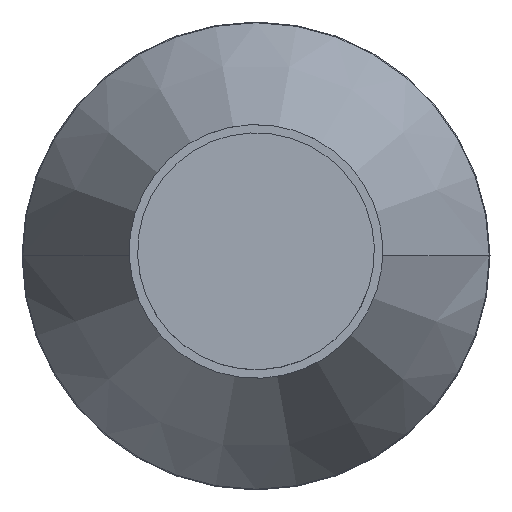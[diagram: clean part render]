
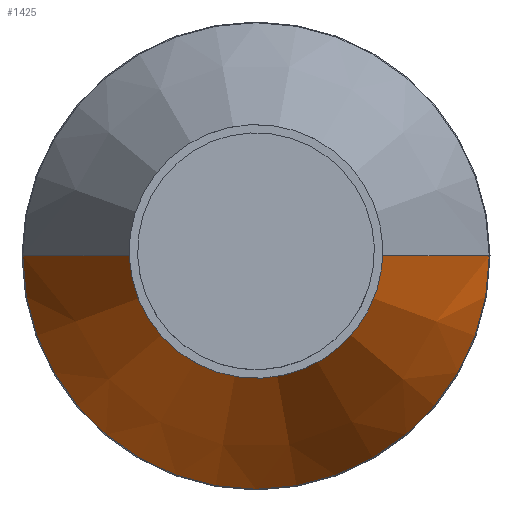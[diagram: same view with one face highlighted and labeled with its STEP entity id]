
A CAD part, top view. The second image highlights one B-rep face of the part: STEP entity #1425.
In plain terms, the highlighted conical face has half-angle 24.664 degrees and reference radius 82.726 mm.
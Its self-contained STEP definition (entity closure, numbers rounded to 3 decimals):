
#3 = CARTESIAN_POINT ( 'NONE',  ( -109.605, 25.586, 44.707 ) ) ;
#113 = AXIS2_PLACEMENT_3D ( 'NONE', #1524, #2333, #1069 ) ;
#251 = DIRECTION ( 'NONE',  ( 0., 0., -1. ) ) ;
#382 = ORIENTED_EDGE ( 'NONE', *, *, #1811, .F. ) ;
#429 = EDGE_CURVE ( 'NONE', #1148, #2212, #741, .T. ) ;
#470 = CARTESIAN_POINT ( 'NONE',  ( -26.879, 25.586, 44.707 ) ) ;
#504 = DIRECTION ( 'NONE',  ( 0.417, 0., -0.909 ) ) ;
#590 = VECTOR ( 'NONE', #504, 1000. ) ;
#650 = VERTEX_POINT ( 'NONE', #470 ) ;
#741 = CIRCLE ( 'NONE', #113, 23.963 ) ;
#843 = AXIS2_PLACEMENT_3D ( 'NONE', #3, #251, #2324 ) ;
#857 = EDGE_CURVE ( 'NONE', #2212, #2357, #1752, .T. ) ;
#902 = CARTESIAN_POINT ( 'NONE',  ( -26.879, 25.586, 44.707 ) ) ;
#940 = ORIENTED_EDGE ( 'NONE', *, *, #1474, .F. ) ;
#1069 = DIRECTION ( 'NONE',  ( -1., 0., 0. ) ) ;
#1091 = FACE_OUTER_BOUND ( 'NONE', #2154, .T. ) ;
#1148 = VERTEX_POINT ( 'NONE', #1533 ) ;
#1370 = CIRCLE ( 'NONE', #1500, 82.726 ) ;
#1425 = ADVANCED_FACE ( 'NONE', ( #1091 ), #1666, .T. ) ;
#1474 = EDGE_CURVE ( 'NONE', #650, #2357, #1370, .T. ) ;
#1500 = AXIS2_PLACEMENT_3D ( 'NONE', #2383, #1815, #1759 ) ;
#1524 = CARTESIAN_POINT ( 'NONE',  ( -109.605, 25.586, 172.679 ) ) ;
#1533 = CARTESIAN_POINT ( 'NONE',  ( -85.642, 25.586, 172.679 ) ) ;
#1666 = CONICAL_SURFACE ( 'NONE', #843, 82.726, 0.43 ) ;
#1752 = LINE ( 'NONE', #2015, #2067 ) ;
#1759 = DIRECTION ( 'NONE',  ( -1., 0., 0. ) ) ;
#1767 = CARTESIAN_POINT ( 'NONE',  ( -133.568, 25.586, 172.679 ) ) ;
#1811 = EDGE_CURVE ( 'NONE', #1148, #650, #2170, .T. ) ;
#1815 = DIRECTION ( 'NONE',  ( 0., 0., -1. ) ) ;
#1895 = ORIENTED_EDGE ( 'NONE', *, *, #429, .T. ) ;
#1987 = DIRECTION ( 'NONE',  ( -0.417, 0., -0.909 ) ) ;
#2015 = CARTESIAN_POINT ( 'NONE',  ( -192.332, 25.586, 44.707 ) ) ;
#2067 = VECTOR ( 'NONE', #1987, 1000. ) ;
#2154 = EDGE_LOOP ( 'NONE', ( #382, #1895, #2644, #940 ) ) ;
#2170 = LINE ( 'NONE', #902, #590 ) ;
#2212 = VERTEX_POINT ( 'NONE', #1767 ) ;
#2324 = DIRECTION ( 'NONE',  ( -1., 0., 0. ) ) ;
#2333 = DIRECTION ( 'NONE',  ( 0., 0., -1. ) ) ;
#2357 = VERTEX_POINT ( 'NONE', #2549 ) ;
#2383 = CARTESIAN_POINT ( 'NONE',  ( -109.605, 25.586, 44.707 ) ) ;
#2549 = CARTESIAN_POINT ( 'NONE',  ( -192.332, 25.586, 44.707 ) ) ;
#2644 = ORIENTED_EDGE ( 'NONE', *, *, #857, .T. ) ;
